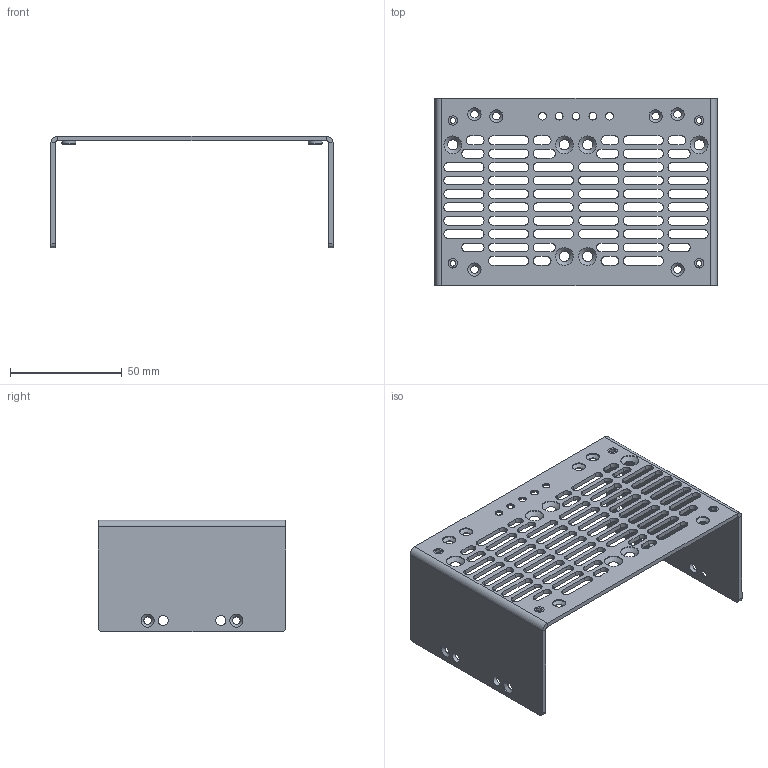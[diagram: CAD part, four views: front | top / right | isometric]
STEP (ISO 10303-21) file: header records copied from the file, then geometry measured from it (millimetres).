
FILE_DESCRIPTION(/* description */ ('','CAx-IF Rec.Pracs.---Representation and Presentation of Product Manufacturing Information (PMI)---4.0---2014-10-13'),/* implementation_level */ '2;1');
FILE_NAME(/* name */ 'G:\Alle CAD Daten\CAMTEC_2020_Pack and Go\PSU CPS-i3000 - CPS-i2000\2021054005.stp',/* time_stamp */ '2020-09-20T20:46:55+02:00',/* author */ ('rryba'),/* organization */ (''),/* preprocessor_version */ 'ST-DEVELOPER v18.1',/* originating_system */ 'Autodesk Inventor 2021',/* authorisation */ '');
FILE_SCHEMA (('AP242_MANAGED_MODEL_BASED_3D_ENGINEERING_MIM_LF { 1 0 10303 442 1 1 4 }'));
Length unit declared in the file: millimetre
Products named in the file (1): 2021054005
Bounding box: 126.4 x 84 x 50 mm (x, y, z)
Volume: 28889.4 mm3; surface area: 35952.1 mm2
Topology: 5 solids, 5 shells, 357 faces, 1261 edges, 1166 vertices
Faces by surface type: cylinder 186, plane 146, cone 21, torus 4
Full cylindrical faces by diameter (mm): 2.459 x4, 3.4 x15, 4.2 x8, 4.5 x5, 5 x5, 5.9 x15, 6.3 x4, 8 x6
Entity records: 13705 total; most frequent: CARTESIAN_POINT 2622, DIRECTION 2387, ORIENTED_EDGE 1964, EDGE_CURVE 982, AXIS2_PLACEMENT_3D 900, VERTEX_POINT 639, LINE 587, VECTOR 587
